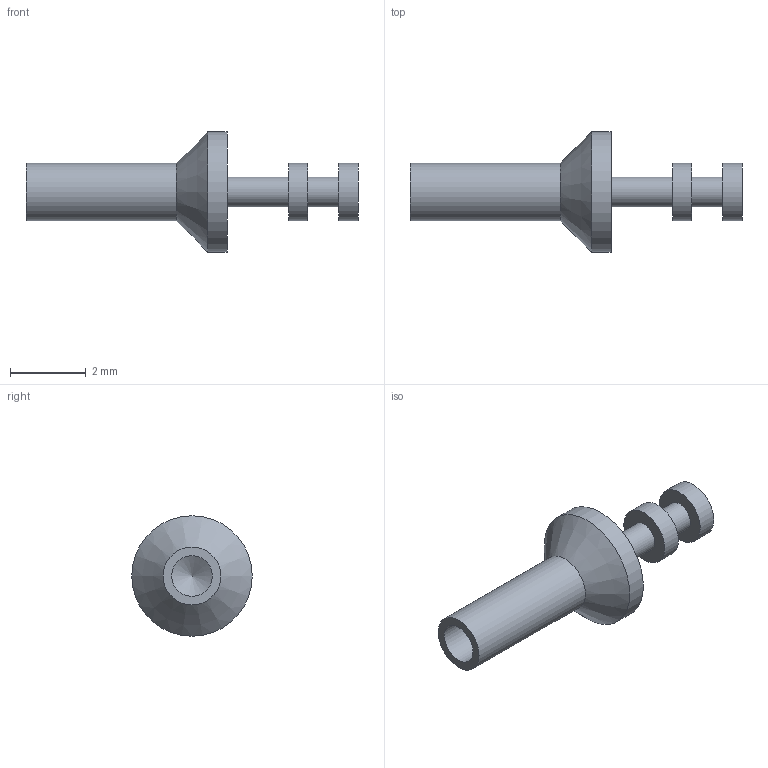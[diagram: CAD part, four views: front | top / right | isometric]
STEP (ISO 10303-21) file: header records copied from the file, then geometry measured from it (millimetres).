
FILE_DESCRIPTION(/* description */ (''),/* implementation_level */ '2;1');
FILE_NAME(/* name */ 'Z:\STEP folder\180-2754-04.ipt.stp',/* time_stamp */ '2016-12-07T16:17:25+00:00',/* author */ ('Paul Karlsons'),/* organization */ (''),/* preprocessor_version */ 'ST-DEVELOPER v15.2',/* originating_system */ 'Autodesk Inventor 2014',/* authorisation */ '');
FILE_SCHEMA (('AUTOMOTIVE_DESIGN { 1 0 10303 214 3 1 1 }'));
Length unit declared in the file: millimetre
Products named in the file (1): 180-2754-04
Bounding box: 8.75 x 3.17 x 3.17 mm (x, y, z)
Volume: 17 mm3; surface area: 62.2 mm2
Topology: 1 solids, 1 shells, 15 faces, 24 edges, 15 vertices
Faces by surface type: cylinder 7, plane 6, cone 2
Full cylindrical faces by diameter (mm): 0.787 x2, 1.067 x1, 1.524 x3, 3.175 x1
Entity records: 315 total; most frequent: DIRECTION 60, CARTESIAN_POINT 44, AXIS2_PLACEMENT_3D 30, EDGE_LOOP 28, ORIENTED_EDGE 28, FACE_BOUND 16, ADVANCED_FACE 15, CIRCLE 14
